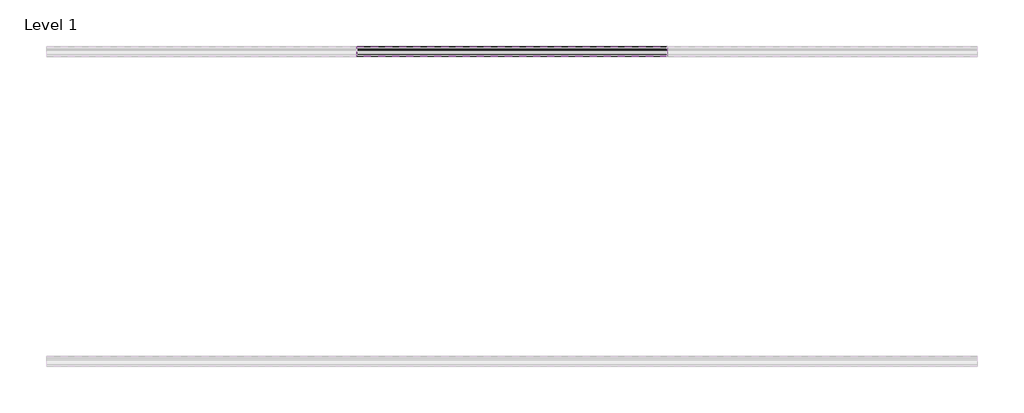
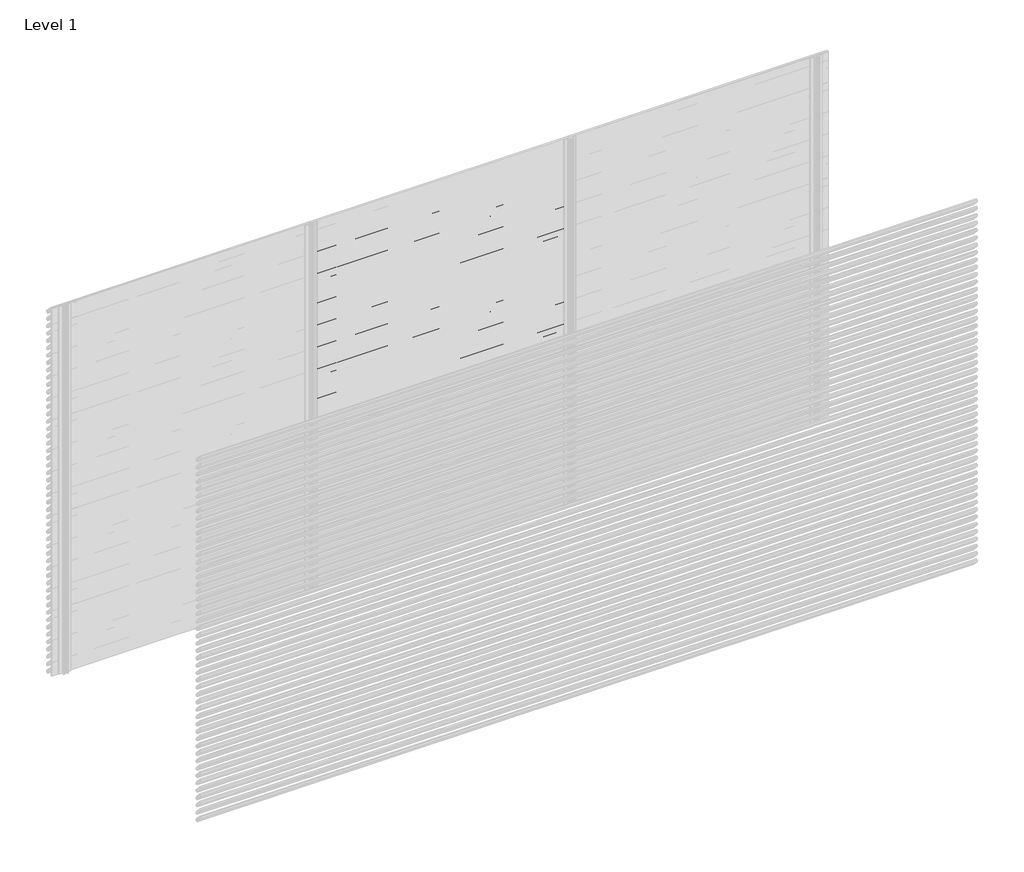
# One storey, part 35 of 153: 33 proxies.
"""IFC4 building model written with IfcOpenShell, lengths in millimetres."""

from ifc_helpers import new_model, si_unit, point, frame, frame_2d, origin, place, context, project, spatial, polyline, circle_curve, trimmed, segment, composite_curve, outline, extrude, element, save

model = new_model("IFC4")

# Units and contexts
model_context = context("Model", 3, world=origin())
ifc_project = project(units=[si_unit("LENGTHUNIT", "METRE", prefix="MILLI")], contexts=[model_context])

# Site, building, storey
site = spatial("IfcSite", under=ifc_project)
building = spatial("IfcBuilding", under=site)
storey = spatial("IfcBuildingStorey", under=building, Name="Level 1", Elevation=0.0)

# Proxies
placement = place(None, origin())
element("IfcBuildingElementProxy", 1, Name="Wall Sweeps", at=placement, inside=storey, context=model_context, shape_type="SweptSolid", body=[
    extrude(outline(composite_curve([segment(polyline([(6989.0270068, 2820.0), (7003.8471842, 2818.7034025), (7053.0270068, 2765.0102749), (7053.0270068, 2753.6108187)]), True, "CONTINUOUS"), segment(trimmed(circle_curve(frame_2d((7049.7613584, 2753.897153)), 3.2781774), [point((7053.0270068, 2753.6108187))], [point((7050.4369373, 2750.6893438))], False, "CARTESIAN"), True, "CONTINUOUS"), segment(polyline([(7050.4369373, 2750.6893438), (7038.1625655, 2751.6282758), (6989.0270068, 2805.2730773), (6989.0270068, 2820.0)]), True, "CONTINUOUS")], self_intersect=False), holes=[composite_curve([segment(polyline([(7003.1351705, 2817.2599659), (6990.5270068, 2818.3630372), (6990.5270068, 2805.856213), (7038.8681968, 2753.0786805), (7050.3042474, 2752.2038762)]), True, "CONTINUOUS"), segment(trimmed(circle_curve(frame_2d((7049.7613584, 2753.897153)), 1.7781774), [point((7050.3042474, 2752.2038762))], [point((7051.5270068, 2753.6864389))], True, "CARTESIAN"), True, "CONTINUOUS"), segment(polyline([(7051.5270068, 2753.6864389), (7051.5270068, 2764.4271392), (7003.1351705, 2817.2599659)]), True, "CONTINUOUS")], self_intersect=False)]), frame((46966.6208098, 0.0, 0.0), z_axis=(1.0, 0.0, 0.0), x_axis=(0.0, 1.0, 0.0)), (0.0, 0.0, 1.0), 1999.9999998),
])
element("IfcBuildingElementProxy", 2, Name="Wall Sweeps", at=placement, inside=storey, context=model_context, shape_type="SweptSolid", body=[
    extrude(outline(composite_curve([segment(polyline([(6989.0270068, 2760.0), (7003.8471842, 2758.7034025), (7053.0270068, 2705.0102749), (7053.0270068, 2693.6108187)]), True, "CONTINUOUS"), segment(trimmed(circle_curve(frame_2d((7049.7613584, 2693.897153)), 3.2781774), [point((7053.0270068, 2693.6108187))], [point((7050.4369373, 2690.6893438))], False, "CARTESIAN"), True, "CONTINUOUS"), segment(polyline([(7050.4369373, 2690.6893438), (7038.1625655, 2691.6282758), (6989.0270068, 2745.2730773), (6989.0270068, 2760.0)]), True, "CONTINUOUS")], self_intersect=False), holes=[composite_curve([segment(polyline([(7003.1351705, 2757.2599659), (6990.5270068, 2758.3630372), (6990.5270068, 2745.856213), (7038.8681968, 2693.0786805), (7050.3042474, 2692.2038762)]), True, "CONTINUOUS"), segment(trimmed(circle_curve(frame_2d((7049.7613584, 2693.897153)), 1.7781774), [point((7050.3042474, 2692.2038762))], [point((7051.5270068, 2693.6864389))], True, "CARTESIAN"), True, "CONTINUOUS"), segment(polyline([(7051.5270068, 2693.6864389), (7051.5270068, 2704.4271392), (7003.1351705, 2757.2599659)]), True, "CONTINUOUS")], self_intersect=False)]), frame((46966.6208098, 0.0, 0.0), z_axis=(1.0, 0.0, 0.0), x_axis=(0.0, 1.0, 0.0)), (0.0, 0.0, 1.0), 1999.9999998),
])
element("IfcBuildingElementProxy", 3, Name="Wall Sweeps", at=placement, inside=storey, context=model_context, shape_type="SweptSolid", body=[
    extrude(outline(composite_curve([segment(polyline([(6989.0270068, 2700.0), (7003.8471842, 2698.7034025), (7053.0270068, 2645.0102749), (7053.0270068, 2633.6108187)]), True, "CONTINUOUS"), segment(trimmed(circle_curve(frame_2d((7049.7613584, 2633.897153)), 3.2781774), [point((7053.0270068, 2633.6108187))], [point((7050.4369373, 2630.6893438))], False, "CARTESIAN"), True, "CONTINUOUS"), segment(polyline([(7050.4369373, 2630.6893438), (7038.1625655, 2631.6282758), (6989.0270068, 2685.2730773), (6989.0270068, 2700.0)]), True, "CONTINUOUS")], self_intersect=False), holes=[composite_curve([segment(polyline([(7003.1351705, 2697.2599659), (6990.5270068, 2698.3630372), (6990.5270068, 2685.856213), (7038.8681968, 2633.0786805), (7050.3042474, 2632.2038762)]), True, "CONTINUOUS"), segment(trimmed(circle_curve(frame_2d((7049.7613584, 2633.897153)), 1.7781774), [point((7050.3042474, 2632.2038762))], [point((7051.5270068, 2633.6864389))], True, "CARTESIAN"), True, "CONTINUOUS"), segment(polyline([(7051.5270068, 2633.6864389), (7051.5270068, 2644.4271392), (7003.1351705, 2697.2599659)]), True, "CONTINUOUS")], self_intersect=False)]), frame((46966.6208098, 0.0, 0.0), z_axis=(1.0, 0.0, 0.0), x_axis=(0.0, 1.0, 0.0)), (0.0, 0.0, 1.0), 1999.9999998),
])
element("IfcBuildingElementProxy", 4, Name="Wall Sweeps", at=placement, inside=storey, context=model_context, shape_type="SweptSolid", body=[
    extrude(outline(composite_curve([segment(polyline([(6989.0270068, 2640.0), (7003.8471842, 2638.7034025), (7053.0270068, 2585.0102749), (7053.0270068, 2573.6108187)]), True, "CONTINUOUS"), segment(trimmed(circle_curve(frame_2d((7049.7613584, 2573.897153)), 3.2781774), [point((7053.0270068, 2573.6108187))], [point((7050.4369373, 2570.6893438))], False, "CARTESIAN"), True, "CONTINUOUS"), segment(polyline([(7050.4369373, 2570.6893438), (7038.1625655, 2571.6282758), (6989.0270068, 2625.2730773), (6989.0270068, 2640.0)]), True, "CONTINUOUS")], self_intersect=False), holes=[composite_curve([segment(polyline([(7003.1351705, 2637.2599659), (6990.5270068, 2638.3630372), (6990.5270068, 2625.856213), (7038.8681968, 2573.0786805), (7050.3042474, 2572.2038762)]), True, "CONTINUOUS"), segment(trimmed(circle_curve(frame_2d((7049.7613584, 2573.897153)), 1.7781774), [point((7050.3042474, 2572.2038762))], [point((7051.5270068, 2573.6864389))], True, "CARTESIAN"), True, "CONTINUOUS"), segment(polyline([(7051.5270068, 2573.6864389), (7051.5270068, 2584.4271392), (7003.1351705, 2637.2599659)]), True, "CONTINUOUS")], self_intersect=False)]), frame((46966.6208098, 0.0, 0.0), z_axis=(1.0, 0.0, 0.0), x_axis=(0.0, 1.0, 0.0)), (0.0, 0.0, 1.0), 1999.9999998),
])
element("IfcBuildingElementProxy", 5, Name="Wall Sweeps", at=placement, inside=storey, context=model_context, shape_type="SweptSolid", body=[
    extrude(outline(composite_curve([segment(polyline([(6989.0270068, 2580.0), (7003.8471842, 2578.7034025), (7053.0270068, 2525.0102749), (7053.0270068, 2513.6108187)]), True, "CONTINUOUS"), segment(trimmed(circle_curve(frame_2d((7049.7613584, 2513.897153)), 3.2781774), [point((7053.0270068, 2513.6108187))], [point((7050.4369373, 2510.6893438))], False, "CARTESIAN"), True, "CONTINUOUS"), segment(polyline([(7050.4369373, 2510.6893438), (7038.1625655, 2511.6282758), (6989.0270068, 2565.2730773), (6989.0270068, 2580.0)]), True, "CONTINUOUS")], self_intersect=False), holes=[composite_curve([segment(polyline([(7003.1351705, 2577.2599659), (6990.5270068, 2578.3630372), (6990.5270068, 2565.856213), (7038.8681968, 2513.0786805), (7050.3042474, 2512.2038762)]), True, "CONTINUOUS"), segment(trimmed(circle_curve(frame_2d((7049.7613584, 2513.897153)), 1.7781774), [point((7050.3042474, 2512.2038762))], [point((7051.5270068, 2513.6864389))], True, "CARTESIAN"), True, "CONTINUOUS"), segment(polyline([(7051.5270068, 2513.6864389), (7051.5270068, 2524.4271392), (7003.1351705, 2577.2599659)]), True, "CONTINUOUS")], self_intersect=False)]), frame((46966.6208098, 0.0, 0.0), z_axis=(1.0, 0.0, 0.0), x_axis=(0.0, 1.0, 0.0)), (0.0, 0.0, 1.0), 1999.9999998),
])
element("IfcBuildingElementProxy", 6, Name="Wall Sweeps", at=placement, inside=storey, context=model_context, shape_type="SweptSolid", body=[
    extrude(outline(composite_curve([segment(polyline([(6989.0270068, 2520.0), (7003.8471842, 2518.7034025), (7053.0270068, 2465.0102749), (7053.0270068, 2453.6108187)]), True, "CONTINUOUS"), segment(trimmed(circle_curve(frame_2d((7049.7613584, 2453.897153)), 3.2781774), [point((7053.0270068, 2453.6108187))], [point((7050.4369373, 2450.6893438))], False, "CARTESIAN"), True, "CONTINUOUS"), segment(polyline([(7050.4369373, 2450.6893438), (7038.1625655, 2451.6282758), (6989.0270068, 2505.2730773), (6989.0270068, 2520.0)]), True, "CONTINUOUS")], self_intersect=False), holes=[composite_curve([segment(polyline([(7003.1351705, 2517.2599659), (6990.5270068, 2518.3630372), (6990.5270068, 2505.856213), (7038.8681968, 2453.0786805), (7050.3042474, 2452.2038762)]), True, "CONTINUOUS"), segment(trimmed(circle_curve(frame_2d((7049.7613584, 2453.897153)), 1.7781774), [point((7050.3042474, 2452.2038762))], [point((7051.5270068, 2453.6864389))], True, "CARTESIAN"), True, "CONTINUOUS"), segment(polyline([(7051.5270068, 2453.6864389), (7051.5270068, 2464.4271392), (7003.1351705, 2517.2599659)]), True, "CONTINUOUS")], self_intersect=False)]), frame((46966.6208098, 0.0, 0.0), z_axis=(1.0, 0.0, 0.0), x_axis=(0.0, 1.0, 0.0)), (0.0, 0.0, 1.0), 1999.9999998),
])
element("IfcBuildingElementProxy", 7, Name="Wall Sweeps", at=placement, inside=storey, context=model_context, shape_type="SweptSolid", body=[
    extrude(outline(composite_curve([segment(polyline([(6989.0270068, 2460.0), (7003.8471842, 2458.7034025), (7053.0270068, 2405.0102749), (7053.0270068, 2393.6108187)]), True, "CONTINUOUS"), segment(trimmed(circle_curve(frame_2d((7049.7613584, 2393.897153)), 3.2781774), [point((7053.0270068, 2393.6108187))], [point((7050.4369373, 2390.6893438))], False, "CARTESIAN"), True, "CONTINUOUS"), segment(polyline([(7050.4369373, 2390.6893438), (7038.1625655, 2391.6282758), (6989.0270068, 2445.2730773), (6989.0270068, 2460.0)]), True, "CONTINUOUS")], self_intersect=False), holes=[composite_curve([segment(polyline([(7003.1351705, 2457.2599659), (6990.5270068, 2458.3630372), (6990.5270068, 2445.856213), (7038.8681968, 2393.0786805), (7050.3042474, 2392.2038762)]), True, "CONTINUOUS"), segment(trimmed(circle_curve(frame_2d((7049.7613584, 2393.897153)), 1.7781774), [point((7050.3042474, 2392.2038762))], [point((7051.5270068, 2393.6864389))], True, "CARTESIAN"), True, "CONTINUOUS"), segment(polyline([(7051.5270068, 2393.6864389), (7051.5270068, 2404.4271392), (7003.1351705, 2457.2599659)]), True, "CONTINUOUS")], self_intersect=False)]), frame((46966.6208098, 0.0, 0.0), z_axis=(1.0, 0.0, 0.0), x_axis=(0.0, 1.0, 0.0)), (0.0, 0.0, 1.0), 1999.9999998),
])
element("IfcBuildingElementProxy", 8, Name="Wall Sweeps", at=placement, inside=storey, context=model_context, shape_type="SweptSolid", body=[
    extrude(outline(composite_curve([segment(polyline([(6989.0270068, 2400.0), (7003.8471842, 2398.7034025), (7053.0270068, 2345.0102749), (7053.0270068, 2333.6108187)]), True, "CONTINUOUS"), segment(trimmed(circle_curve(frame_2d((7049.7613584, 2333.897153)), 3.2781774), [point((7053.0270068, 2333.6108187))], [point((7050.4369373, 2330.6893438))], False, "CARTESIAN"), True, "CONTINUOUS"), segment(polyline([(7050.4369373, 2330.6893438), (7038.1625655, 2331.6282758), (6989.0270068, 2385.2730773), (6989.0270068, 2400.0)]), True, "CONTINUOUS")], self_intersect=False), holes=[composite_curve([segment(polyline([(7003.1351705, 2397.2599659), (6990.5270068, 2398.3630372), (6990.5270068, 2385.856213), (7038.8681968, 2333.0786805), (7050.3042474, 2332.2038762)]), True, "CONTINUOUS"), segment(trimmed(circle_curve(frame_2d((7049.7613584, 2333.897153)), 1.7781774), [point((7050.3042474, 2332.2038762))], [point((7051.5270068, 2333.6864389))], True, "CARTESIAN"), True, "CONTINUOUS"), segment(polyline([(7051.5270068, 2333.6864389), (7051.5270068, 2344.4271392), (7003.1351705, 2397.2599659)]), True, "CONTINUOUS")], self_intersect=False)]), frame((46966.6208098, 0.0, 0.0), z_axis=(1.0, 0.0, 0.0), x_axis=(0.0, 1.0, 0.0)), (0.0, 0.0, 1.0), 1999.9999998),
])
element("IfcBuildingElementProxy", 9, Name="Wall Sweeps", at=placement, inside=storey, context=model_context, shape_type="SweptSolid", body=[
    extrude(outline(composite_curve([segment(polyline([(6989.0270068, 2340.0), (7003.8471842, 2338.7034025), (7053.0270068, 2285.0102749), (7053.0270068, 2273.6108187)]), True, "CONTINUOUS"), segment(trimmed(circle_curve(frame_2d((7049.7613584, 2273.897153)), 3.2781774), [point((7053.0270068, 2273.6108187))], [point((7050.4369373, 2270.6893438))], False, "CARTESIAN"), True, "CONTINUOUS"), segment(polyline([(7050.4369373, 2270.6893438), (7038.1625655, 2271.6282758), (6989.0270068, 2325.2730773), (6989.0270068, 2340.0)]), True, "CONTINUOUS")], self_intersect=False), holes=[composite_curve([segment(polyline([(7003.1351705, 2337.2599659), (6990.5270068, 2338.3630372), (6990.5270068, 2325.856213), (7038.8681968, 2273.0786805), (7050.3042474, 2272.2038762)]), True, "CONTINUOUS"), segment(trimmed(circle_curve(frame_2d((7049.7613584, 2273.897153)), 1.7781774), [point((7050.3042474, 2272.2038762))], [point((7051.5270068, 2273.6864389))], True, "CARTESIAN"), True, "CONTINUOUS"), segment(polyline([(7051.5270068, 2273.6864389), (7051.5270068, 2284.4271392), (7003.1351705, 2337.2599659)]), True, "CONTINUOUS")], self_intersect=False)]), frame((46966.6208098, 0.0, 0.0), z_axis=(1.0, 0.0, 0.0), x_axis=(0.0, 1.0, 0.0)), (0.0, 0.0, 1.0), 1999.9999998),
])
element("IfcBuildingElementProxy", 10, Name="Wall Sweeps", at=placement, inside=storey, context=model_context, shape_type="SweptSolid", body=[
    extrude(outline(composite_curve([segment(polyline([(6989.0270068, 2280.0), (7003.8471842, 2278.7034025), (7053.0270068, 2225.0102749), (7053.0270068, 2213.6108187)]), True, "CONTINUOUS"), segment(trimmed(circle_curve(frame_2d((7049.7613584, 2213.897153)), 3.2781774), [point((7053.0270068, 2213.6108187))], [point((7050.4369373, 2210.6893438))], False, "CARTESIAN"), True, "CONTINUOUS"), segment(polyline([(7050.4369373, 2210.6893438), (7038.1625655, 2211.6282758), (6989.0270068, 2265.2730773), (6989.0270068, 2280.0)]), True, "CONTINUOUS")], self_intersect=False), holes=[composite_curve([segment(polyline([(7003.1351705, 2277.2599659), (6990.5270068, 2278.3630372), (6990.5270068, 2265.856213), (7038.8681968, 2213.0786805), (7050.3042474, 2212.2038762)]), True, "CONTINUOUS"), segment(trimmed(circle_curve(frame_2d((7049.7613584, 2213.897153)), 1.7781774), [point((7050.3042474, 2212.2038762))], [point((7051.5270068, 2213.6864389))], True, "CARTESIAN"), True, "CONTINUOUS"), segment(polyline([(7051.5270068, 2213.6864389), (7051.5270068, 2224.4271392), (7003.1351705, 2277.2599659)]), True, "CONTINUOUS")], self_intersect=False)]), frame((46966.6208098, 0.0, 0.0), z_axis=(1.0, 0.0, 0.0), x_axis=(0.0, 1.0, 0.0)), (0.0, 0.0, 1.0), 1999.9999998),
])
element("IfcBuildingElementProxy", 11, Name="Wall Sweeps", at=placement, inside=storey, context=model_context, shape_type="SweptSolid", body=[
    extrude(outline(composite_curve([segment(polyline([(6989.0270068, 2220.0), (7003.8471842, 2218.7034025), (7053.0270068, 2165.0102749), (7053.0270068, 2153.6108187)]), True, "CONTINUOUS"), segment(trimmed(circle_curve(frame_2d((7049.7613584, 2153.897153)), 3.2781774), [point((7053.0270068, 2153.6108187))], [point((7050.4369373, 2150.6893438))], False, "CARTESIAN"), True, "CONTINUOUS"), segment(polyline([(7050.4369373, 2150.6893438), (7038.1625655, 2151.6282758), (6989.0270068, 2205.2730773), (6989.0270068, 2220.0)]), True, "CONTINUOUS")], self_intersect=False), holes=[composite_curve([segment(polyline([(7003.1351705, 2217.2599659), (6990.5270068, 2218.3630372), (6990.5270068, 2205.856213), (7038.8681968, 2153.0786805), (7050.3042474, 2152.2038762)]), True, "CONTINUOUS"), segment(trimmed(circle_curve(frame_2d((7049.7613584, 2153.897153)), 1.7781774), [point((7050.3042474, 2152.2038762))], [point((7051.5270068, 2153.6864389))], True, "CARTESIAN"), True, "CONTINUOUS"), segment(polyline([(7051.5270068, 2153.6864389), (7051.5270068, 2164.4271392), (7003.1351705, 2217.2599659)]), True, "CONTINUOUS")], self_intersect=False)]), frame((46966.6208098, 0.0, 0.0), z_axis=(1.0, 0.0, 0.0), x_axis=(0.0, 1.0, 0.0)), (0.0, 0.0, 1.0), 1999.9999998),
])
element("IfcBuildingElementProxy", 12, Name="Wall Sweeps", at=placement, inside=storey, context=model_context, shape_type="SweptSolid", body=[
    extrude(outline(composite_curve([segment(polyline([(6989.0270068, 2160.0), (7003.8471842, 2158.7034025), (7053.0270068, 2105.0102749), (7053.0270068, 2093.6108187)]), True, "CONTINUOUS"), segment(trimmed(circle_curve(frame_2d((7049.7613584, 2093.897153)), 3.2781774), [point((7053.0270068, 2093.6108187))], [point((7050.4369373, 2090.6893438))], False, "CARTESIAN"), True, "CONTINUOUS"), segment(polyline([(7050.4369373, 2090.6893438), (7038.1625655, 2091.6282758), (6989.0270068, 2145.2730773), (6989.0270068, 2160.0)]), True, "CONTINUOUS")], self_intersect=False), holes=[composite_curve([segment(polyline([(7003.1351705, 2157.2599659), (6990.5270068, 2158.3630372), (6990.5270068, 2145.856213), (7038.8681968, 2093.0786805), (7050.3042474, 2092.2038762)]), True, "CONTINUOUS"), segment(trimmed(circle_curve(frame_2d((7049.7613584, 2093.897153)), 1.7781774), [point((7050.3042474, 2092.2038762))], [point((7051.5270068, 2093.6864389))], True, "CARTESIAN"), True, "CONTINUOUS"), segment(polyline([(7051.5270068, 2093.6864389), (7051.5270068, 2104.4271392), (7003.1351705, 2157.2599659)]), True, "CONTINUOUS")], self_intersect=False)]), frame((46966.6208098, 0.0, 0.0), z_axis=(1.0, 0.0, 0.0), x_axis=(0.0, 1.0, 0.0)), (0.0, 0.0, 1.0), 1999.9999998),
])
element("IfcBuildingElementProxy", 13, Name="Wall Sweeps", at=placement, inside=storey, context=model_context, shape_type="SweptSolid", body=[
    extrude(outline(composite_curve([segment(polyline([(6989.0270068, 2100.0), (7003.8471842, 2098.7034025), (7053.0270068, 2045.0102749), (7053.0270068, 2033.6108187)]), True, "CONTINUOUS"), segment(trimmed(circle_curve(frame_2d((7049.7613584, 2033.897153)), 3.2781774), [point((7053.0270068, 2033.6108187))], [point((7050.4369373, 2030.6893438))], False, "CARTESIAN"), True, "CONTINUOUS"), segment(polyline([(7050.4369373, 2030.6893438), (7038.1625655, 2031.6282758), (6989.0270068, 2085.2730773), (6989.0270068, 2100.0)]), True, "CONTINUOUS")], self_intersect=False), holes=[composite_curve([segment(polyline([(7003.1351705, 2097.2599659), (6990.5270068, 2098.3630372), (6990.5270068, 2085.856213), (7038.8681968, 2033.0786805), (7050.3042474, 2032.2038762)]), True, "CONTINUOUS"), segment(trimmed(circle_curve(frame_2d((7049.7613584, 2033.897153)), 1.7781774), [point((7050.3042474, 2032.2038762))], [point((7051.5270068, 2033.6864389))], True, "CARTESIAN"), True, "CONTINUOUS"), segment(polyline([(7051.5270068, 2033.6864389), (7051.5270068, 2044.4271392), (7003.1351705, 2097.2599659)]), True, "CONTINUOUS")], self_intersect=False)]), frame((46966.6208098, 0.0, 0.0), z_axis=(1.0, 0.0, 0.0), x_axis=(0.0, 1.0, 0.0)), (0.0, 0.0, 1.0), 1999.9999998),
])
element("IfcBuildingElementProxy", 14, Name="Wall Sweeps", at=placement, inside=storey, context=model_context, shape_type="SweptSolid", body=[
    extrude(outline(composite_curve([segment(polyline([(6989.0270068, 2040.0), (7003.8471842, 2038.7034025), (7053.0270068, 1985.0102749), (7053.0270068, 1973.6108187)]), True, "CONTINUOUS"), segment(trimmed(circle_curve(frame_2d((7049.7613584, 1973.897153)), 3.2781774), [point((7053.0270068, 1973.6108187))], [point((7050.4369373, 1970.6893438))], False, "CARTESIAN"), True, "CONTINUOUS"), segment(polyline([(7050.4369373, 1970.6893438), (7038.1625655, 1971.6282758), (6989.0270068, 2025.2730773), (6989.0270068, 2040.0)]), True, "CONTINUOUS")], self_intersect=False), holes=[composite_curve([segment(polyline([(7003.1351705, 2037.2599659), (6990.5270068, 2038.3630372), (6990.5270068, 2025.856213), (7038.8681968, 1973.0786805), (7050.3042474, 1972.2038762)]), True, "CONTINUOUS"), segment(trimmed(circle_curve(frame_2d((7049.7613584, 1973.897153)), 1.7781774), [point((7050.3042474, 1972.2038762))], [point((7051.5270068, 1973.6864389))], True, "CARTESIAN"), True, "CONTINUOUS"), segment(polyline([(7051.5270068, 1973.6864389), (7051.5270068, 1984.4271392), (7003.1351705, 2037.2599659)]), True, "CONTINUOUS")], self_intersect=False)]), frame((46966.6208098, 0.0, 0.0), z_axis=(1.0, 0.0, 0.0), x_axis=(0.0, 1.0, 0.0)), (0.0, 0.0, 1.0), 1999.9999998),
])
element("IfcBuildingElementProxy", 15, Name="Wall Sweeps", at=placement, inside=storey, context=model_context, shape_type="SweptSolid", body=[
    extrude(outline(composite_curve([segment(polyline([(6989.0270068, 1980.0), (7003.8471842, 1978.7034025), (7053.0270068, 1925.0102749), (7053.0270068, 1913.6108187)]), True, "CONTINUOUS"), segment(trimmed(circle_curve(frame_2d((7049.7613584, 1913.897153)), 3.2781774), [point((7053.0270068, 1913.6108187))], [point((7050.4369373, 1910.6893438))], False, "CARTESIAN"), True, "CONTINUOUS"), segment(polyline([(7050.4369373, 1910.6893438), (7038.1625655, 1911.6282758), (6989.0270068, 1965.2730773), (6989.0270068, 1980.0)]), True, "CONTINUOUS")], self_intersect=False), holes=[composite_curve([segment(polyline([(7003.1351705, 1977.2599659), (6990.5270068, 1978.3630372), (6990.5270068, 1965.856213), (7038.8681968, 1913.0786805), (7050.3042474, 1912.2038762)]), True, "CONTINUOUS"), segment(trimmed(circle_curve(frame_2d((7049.7613584, 1913.897153)), 1.7781774), [point((7050.3042474, 1912.2038762))], [point((7051.5270068, 1913.6864389))], True, "CARTESIAN"), True, "CONTINUOUS"), segment(polyline([(7051.5270068, 1913.6864389), (7051.5270068, 1924.4271392), (7003.1351705, 1977.2599659)]), True, "CONTINUOUS")], self_intersect=False)]), frame((46966.6208098, 0.0, 0.0), z_axis=(1.0, 0.0, 0.0), x_axis=(0.0, 1.0, 0.0)), (0.0, 0.0, 1.0), 1999.9999998),
])
element("IfcBuildingElementProxy", 16, Name="Wall Sweeps", at=placement, inside=storey, context=model_context, shape_type="SweptSolid", body=[
    extrude(outline(composite_curve([segment(polyline([(6989.0270068, 1920.0), (7003.8471842, 1918.7034025), (7053.0270068, 1865.0102749), (7053.0270068, 1853.6108187)]), True, "CONTINUOUS"), segment(trimmed(circle_curve(frame_2d((7049.7613584, 1853.897153)), 3.2781774), [point((7053.0270068, 1853.6108187))], [point((7050.4369373, 1850.6893438))], False, "CARTESIAN"), True, "CONTINUOUS"), segment(polyline([(7050.4369373, 1850.6893438), (7038.1625655, 1851.6282758), (6989.0270068, 1905.2730773), (6989.0270068, 1920.0)]), True, "CONTINUOUS")], self_intersect=False), holes=[composite_curve([segment(polyline([(7003.1351705, 1917.2599659), (6990.5270068, 1918.3630372), (6990.5270068, 1905.856213), (7038.8681968, 1853.0786805), (7050.3042474, 1852.2038762)]), True, "CONTINUOUS"), segment(trimmed(circle_curve(frame_2d((7049.7613584, 1853.897153)), 1.7781774), [point((7050.3042474, 1852.2038762))], [point((7051.5270068, 1853.6864389))], True, "CARTESIAN"), True, "CONTINUOUS"), segment(polyline([(7051.5270068, 1853.6864389), (7051.5270068, 1864.4271392), (7003.1351705, 1917.2599659)]), True, "CONTINUOUS")], self_intersect=False)]), frame((46966.6208098, 0.0, 0.0), z_axis=(1.0, 0.0, 0.0), x_axis=(0.0, 1.0, 0.0)), (0.0, 0.0, 1.0), 1999.9999998),
])
element("IfcBuildingElementProxy", 17, Name="Wall Sweeps", at=placement, inside=storey, context=model_context, shape_type="SweptSolid", body=[
    extrude(outline(composite_curve([segment(polyline([(6989.0270068, 1860.0), (7003.8471842, 1858.7034025), (7053.0270068, 1805.0102749), (7053.0270068, 1793.6108187)]), True, "CONTINUOUS"), segment(trimmed(circle_curve(frame_2d((7049.7613584, 1793.897153)), 3.2781774), [point((7053.0270068, 1793.6108187))], [point((7050.4369373, 1790.6893438))], False, "CARTESIAN"), True, "CONTINUOUS"), segment(polyline([(7050.4369373, 1790.6893438), (7038.1625655, 1791.6282758), (6989.0270068, 1845.2730773), (6989.0270068, 1860.0)]), True, "CONTINUOUS")], self_intersect=False), holes=[composite_curve([segment(polyline([(7003.1351705, 1857.2599659), (6990.5270068, 1858.3630372), (6990.5270068, 1845.856213), (7038.8681968, 1793.0786805), (7050.3042474, 1792.2038762)]), True, "CONTINUOUS"), segment(trimmed(circle_curve(frame_2d((7049.7613584, 1793.897153)), 1.7781774), [point((7050.3042474, 1792.2038762))], [point((7051.5270068, 1793.6864389))], True, "CARTESIAN"), True, "CONTINUOUS"), segment(polyline([(7051.5270068, 1793.6864389), (7051.5270068, 1804.4271392), (7003.1351705, 1857.2599659)]), True, "CONTINUOUS")], self_intersect=False)]), frame((46966.6208098, 0.0, 0.0), z_axis=(1.0, 0.0, 0.0), x_axis=(0.0, 1.0, 0.0)), (0.0, 0.0, 1.0), 1999.9999998),
])
element("IfcBuildingElementProxy", 18, Name="Wall Sweeps", at=placement, inside=storey, context=model_context, shape_type="SweptSolid", body=[
    extrude(outline(composite_curve([segment(polyline([(6989.0270068, 1800.0), (7003.8471842, 1798.7034025), (7053.0270068, 1745.0102749), (7053.0270068, 1733.6108187)]), True, "CONTINUOUS"), segment(trimmed(circle_curve(frame_2d((7049.7613584, 1733.897153)), 3.2781774), [point((7053.0270068, 1733.6108187))], [point((7050.4369373, 1730.6893438))], False, "CARTESIAN"), True, "CONTINUOUS"), segment(polyline([(7050.4369373, 1730.6893438), (7038.1625655, 1731.6282758), (6989.0270068, 1785.2730773), (6989.0270068, 1800.0)]), True, "CONTINUOUS")], self_intersect=False), holes=[composite_curve([segment(polyline([(7003.1351705, 1797.2599659), (6990.5270068, 1798.3630372), (6990.5270068, 1785.856213), (7038.8681968, 1733.0786805), (7050.3042474, 1732.2038762)]), True, "CONTINUOUS"), segment(trimmed(circle_curve(frame_2d((7049.7613584, 1733.897153)), 1.7781774), [point((7050.3042474, 1732.2038762))], [point((7051.5270068, 1733.6864389))], True, "CARTESIAN"), True, "CONTINUOUS"), segment(polyline([(7051.5270068, 1733.6864389), (7051.5270068, 1744.4271392), (7003.1351705, 1797.2599659)]), True, "CONTINUOUS")], self_intersect=False)]), frame((46966.6208098, 0.0, 0.0), z_axis=(1.0, 0.0, 0.0), x_axis=(0.0, 1.0, 0.0)), (0.0, 0.0, 1.0), 1999.9999998),
])
element("IfcBuildingElementProxy", 19, Name="Wall Sweeps", at=placement, inside=storey, context=model_context, shape_type="SweptSolid", body=[
    extrude(outline(composite_curve([segment(polyline([(6989.0270068, 1740.0), (7003.8471842, 1738.7034025), (7053.0270068, 1685.0102749), (7053.0270068, 1673.6108187)]), True, "CONTINUOUS"), segment(trimmed(circle_curve(frame_2d((7049.7613584, 1673.897153)), 3.2781774), [point((7053.0270068, 1673.6108187))], [point((7050.4369373, 1670.6893438))], False, "CARTESIAN"), True, "CONTINUOUS"), segment(polyline([(7050.4369373, 1670.6893438), (7038.1625655, 1671.6282758), (6989.0270068, 1725.2730773), (6989.0270068, 1740.0)]), True, "CONTINUOUS")], self_intersect=False), holes=[composite_curve([segment(polyline([(7003.1351705, 1737.2599659), (6990.5270068, 1738.3630372), (6990.5270068, 1725.856213), (7038.8681968, 1673.0786805), (7050.3042474, 1672.2038762)]), True, "CONTINUOUS"), segment(trimmed(circle_curve(frame_2d((7049.7613584, 1673.897153)), 1.7781774), [point((7050.3042474, 1672.2038762))], [point((7051.5270068, 1673.6864389))], True, "CARTESIAN"), True, "CONTINUOUS"), segment(polyline([(7051.5270068, 1673.6864389), (7051.5270068, 1684.4271392), (7003.1351705, 1737.2599659)]), True, "CONTINUOUS")], self_intersect=False)]), frame((46966.6208098, 0.0, 0.0), z_axis=(1.0, 0.0, 0.0), x_axis=(0.0, 1.0, 0.0)), (0.0, 0.0, 1.0), 1999.9999998),
])
element("IfcBuildingElementProxy", 20, Name="Wall Sweeps", at=placement, inside=storey, context=model_context, shape_type="SweptSolid", body=[
    extrude(outline(composite_curve([segment(polyline([(6989.0270068, 1680.0), (7003.8471842, 1678.7034025), (7053.0270068, 1625.0102749), (7053.0270068, 1613.6108187)]), True, "CONTINUOUS"), segment(trimmed(circle_curve(frame_2d((7049.7613584, 1613.897153)), 3.2781774), [point((7053.0270068, 1613.6108187))], [point((7050.4369373, 1610.6893438))], False, "CARTESIAN"), True, "CONTINUOUS"), segment(polyline([(7050.4369373, 1610.6893438), (7038.1625655, 1611.6282758), (6989.0270068, 1665.2730773), (6989.0270068, 1680.0)]), True, "CONTINUOUS")], self_intersect=False), holes=[composite_curve([segment(polyline([(7003.1351705, 1677.2599659), (6990.5270068, 1678.3630372), (6990.5270068, 1665.856213), (7038.8681968, 1613.0786805), (7050.3042474, 1612.2038762)]), True, "CONTINUOUS"), segment(trimmed(circle_curve(frame_2d((7049.7613584, 1613.897153)), 1.7781774), [point((7050.3042474, 1612.2038762))], [point((7051.5270068, 1613.6864389))], True, "CARTESIAN"), True, "CONTINUOUS"), segment(polyline([(7051.5270068, 1613.6864389), (7051.5270068, 1624.4271392), (7003.1351705, 1677.2599659)]), True, "CONTINUOUS")], self_intersect=False)]), frame((46966.6208098, 0.0, 0.0), z_axis=(1.0, 0.0, 0.0), x_axis=(0.0, 1.0, 0.0)), (0.0, 0.0, 1.0), 1999.9999998),
])
element("IfcBuildingElementProxy", 21, Name="Wall Sweeps", at=placement, inside=storey, context=model_context, shape_type="SweptSolid", body=[
    extrude(outline(composite_curve([segment(polyline([(6989.0270068, 1620.0), (7003.8471842, 1618.7034025), (7053.0270068, 1565.0102749), (7053.0270068, 1553.6108187)]), True, "CONTINUOUS"), segment(trimmed(circle_curve(frame_2d((7049.7613584, 1553.897153)), 3.2781774), [point((7053.0270068, 1553.6108187))], [point((7050.4369373, 1550.6893438))], False, "CARTESIAN"), True, "CONTINUOUS"), segment(polyline([(7050.4369373, 1550.6893438), (7038.1625655, 1551.6282758), (6989.0270068, 1605.2730773), (6989.0270068, 1620.0)]), True, "CONTINUOUS")], self_intersect=False), holes=[composite_curve([segment(polyline([(7003.1351705, 1617.2599659), (6990.5270068, 1618.3630372), (6990.5270068, 1605.856213), (7038.8681968, 1553.0786805), (7050.3042474, 1552.2038762)]), True, "CONTINUOUS"), segment(trimmed(circle_curve(frame_2d((7049.7613584, 1553.897153)), 1.7781774), [point((7050.3042474, 1552.2038762))], [point((7051.5270068, 1553.6864389))], True, "CARTESIAN"), True, "CONTINUOUS"), segment(polyline([(7051.5270068, 1553.6864389), (7051.5270068, 1564.4271392), (7003.1351705, 1617.2599659)]), True, "CONTINUOUS")], self_intersect=False)]), frame((46966.6208098, 0.0, 0.0), z_axis=(1.0, 0.0, 0.0), x_axis=(0.0, 1.0, 0.0)), (0.0, 0.0, 1.0), 1999.9999998),
])
element("IfcBuildingElementProxy", 22, Name="Wall Sweeps", at=placement, inside=storey, context=model_context, shape_type="SweptSolid", body=[
    extrude(outline(composite_curve([segment(polyline([(6989.0270068, 1560.0), (7003.8471842, 1558.7034025), (7053.0270068, 1505.0102749), (7053.0270068, 1493.6108187)]), True, "CONTINUOUS"), segment(trimmed(circle_curve(frame_2d((7049.7613584, 1493.897153)), 3.2781774), [point((7053.0270068, 1493.6108187))], [point((7050.4369373, 1490.6893438))], False, "CARTESIAN"), True, "CONTINUOUS"), segment(polyline([(7050.4369373, 1490.6893438), (7038.1625655, 1491.6282758), (6989.0270068, 1545.2730773), (6989.0270068, 1560.0)]), True, "CONTINUOUS")], self_intersect=False), holes=[composite_curve([segment(polyline([(7003.1351705, 1557.2599659), (6990.5270068, 1558.3630372), (6990.5270068, 1545.856213), (7038.8681968, 1493.0786805), (7050.3042474, 1492.2038762)]), True, "CONTINUOUS"), segment(trimmed(circle_curve(frame_2d((7049.7613584, 1493.897153)), 1.7781774), [point((7050.3042474, 1492.2038762))], [point((7051.5270068, 1493.6864389))], True, "CARTESIAN"), True, "CONTINUOUS"), segment(polyline([(7051.5270068, 1493.6864389), (7051.5270068, 1504.4271392), (7003.1351705, 1557.2599659)]), True, "CONTINUOUS")], self_intersect=False)]), frame((46966.6208098, 0.0, 0.0), z_axis=(1.0, 0.0, 0.0), x_axis=(0.0, 1.0, 0.0)), (0.0, 0.0, 1.0), 1999.9999998),
])
element("IfcBuildingElementProxy", 23, Name="Wall Sweeps", at=placement, inside=storey, context=model_context, shape_type="SweptSolid", body=[
    extrude(outline(composite_curve([segment(polyline([(6989.0270068, 1500.0), (7003.8471842, 1498.7034025), (7053.0270068, 1445.0102749), (7053.0270068, 1433.6108187)]), True, "CONTINUOUS"), segment(trimmed(circle_curve(frame_2d((7049.7613584, 1433.897153)), 3.2781774), [point((7053.0270068, 1433.6108187))], [point((7050.4369373, 1430.6893438))], False, "CARTESIAN"), True, "CONTINUOUS"), segment(polyline([(7050.4369373, 1430.6893438), (7038.1625655, 1431.6282758), (6989.0270068, 1485.2730773), (6989.0270068, 1500.0)]), True, "CONTINUOUS")], self_intersect=False), holes=[composite_curve([segment(polyline([(7003.1351705, 1497.2599659), (6990.5270068, 1498.3630372), (6990.5270068, 1485.856213), (7038.8681968, 1433.0786805), (7050.3042474, 1432.2038762)]), True, "CONTINUOUS"), segment(trimmed(circle_curve(frame_2d((7049.7613584, 1433.897153)), 1.7781774), [point((7050.3042474, 1432.2038762))], [point((7051.5270068, 1433.6864389))], True, "CARTESIAN"), True, "CONTINUOUS"), segment(polyline([(7051.5270068, 1433.6864389), (7051.5270068, 1444.4271392), (7003.1351705, 1497.2599659)]), True, "CONTINUOUS")], self_intersect=False)]), frame((46966.6208098, 0.0, 0.0), z_axis=(1.0, 0.0, 0.0), x_axis=(0.0, 1.0, 0.0)), (0.0, 0.0, 1.0), 1999.9999998),
])
element("IfcBuildingElementProxy", 24, Name="Wall Sweeps", at=placement, inside=storey, context=model_context, shape_type="SweptSolid", body=[
    extrude(outline(composite_curve([segment(polyline([(6989.0270068, 1440.0), (7003.8471842, 1438.7034025), (7053.0270068, 1385.0102749), (7053.0270068, 1373.6108187)]), True, "CONTINUOUS"), segment(trimmed(circle_curve(frame_2d((7049.7613584, 1373.897153)), 3.2781774), [point((7053.0270068, 1373.6108187))], [point((7050.4369373, 1370.6893438))], False, "CARTESIAN"), True, "CONTINUOUS"), segment(polyline([(7050.4369373, 1370.6893438), (7038.1625655, 1371.6282758), (6989.0270068, 1425.2730773), (6989.0270068, 1440.0)]), True, "CONTINUOUS")], self_intersect=False), holes=[composite_curve([segment(polyline([(7003.1351705, 1437.2599659), (6990.5270068, 1438.3630372), (6990.5270068, 1425.856213), (7038.8681968, 1373.0786805), (7050.3042474, 1372.2038762)]), True, "CONTINUOUS"), segment(trimmed(circle_curve(frame_2d((7049.7613584, 1373.897153)), 1.7781774), [point((7050.3042474, 1372.2038762))], [point((7051.5270068, 1373.6864389))], True, "CARTESIAN"), True, "CONTINUOUS"), segment(polyline([(7051.5270068, 1373.6864389), (7051.5270068, 1384.4271392), (7003.1351705, 1437.2599659)]), True, "CONTINUOUS")], self_intersect=False)]), frame((46966.6208098, 0.0, 0.0), z_axis=(1.0, 0.0, 0.0), x_axis=(0.0, 1.0, 0.0)), (0.0, 0.0, 1.0), 1999.9999998),
])
element("IfcBuildingElementProxy", 25, Name="Wall Sweeps", at=placement, inside=storey, context=model_context, shape_type="SweptSolid", body=[
    extrude(outline(composite_curve([segment(polyline([(6989.0270068, 1380.0), (7003.8471842, 1378.7034025), (7053.0270068, 1325.0102749), (7053.0270068, 1313.6108187)]), True, "CONTINUOUS"), segment(trimmed(circle_curve(frame_2d((7049.7613584, 1313.897153)), 3.2781774), [point((7053.0270068, 1313.6108187))], [point((7050.4369373, 1310.6893438))], False, "CARTESIAN"), True, "CONTINUOUS"), segment(polyline([(7050.4369373, 1310.6893438), (7038.1625655, 1311.6282758), (6989.0270068, 1365.2730773), (6989.0270068, 1380.0)]), True, "CONTINUOUS")], self_intersect=False), holes=[composite_curve([segment(polyline([(7003.1351705, 1377.2599659), (6990.5270068, 1378.3630372), (6990.5270068, 1365.856213), (7038.8681968, 1313.0786805), (7050.3042474, 1312.2038762)]), True, "CONTINUOUS"), segment(trimmed(circle_curve(frame_2d((7049.7613584, 1313.897153)), 1.7781774), [point((7050.3042474, 1312.2038762))], [point((7051.5270068, 1313.6864389))], True, "CARTESIAN"), True, "CONTINUOUS"), segment(polyline([(7051.5270068, 1313.6864389), (7051.5270068, 1324.4271392), (7003.1351705, 1377.2599659)]), True, "CONTINUOUS")], self_intersect=False)]), frame((46966.6208098, 0.0, 0.0), z_axis=(1.0, 0.0, 0.0), x_axis=(0.0, 1.0, 0.0)), (0.0, 0.0, 1.0), 1999.9999998),
])
element("IfcBuildingElementProxy", 26, Name="Wall Sweeps", at=placement, inside=storey, context=model_context, shape_type="SweptSolid", body=[
    extrude(outline(composite_curve([segment(polyline([(6989.0270068, 1320.0), (7003.8471842, 1318.7034025), (7053.0270068, 1265.0102749), (7053.0270068, 1253.6108187)]), True, "CONTINUOUS"), segment(trimmed(circle_curve(frame_2d((7049.7613584, 1253.897153)), 3.2781774), [point((7053.0270068, 1253.6108187))], [point((7050.4369373, 1250.6893438))], False, "CARTESIAN"), True, "CONTINUOUS"), segment(polyline([(7050.4369373, 1250.6893438), (7038.1625655, 1251.6282758), (6989.0270068, 1305.2730773), (6989.0270068, 1320.0)]), True, "CONTINUOUS")], self_intersect=False), holes=[composite_curve([segment(polyline([(7003.1351705, 1317.2599659), (6990.5270068, 1318.3630372), (6990.5270068, 1305.856213), (7038.8681968, 1253.0786805), (7050.3042474, 1252.2038762)]), True, "CONTINUOUS"), segment(trimmed(circle_curve(frame_2d((7049.7613584, 1253.897153)), 1.7781774), [point((7050.3042474, 1252.2038762))], [point((7051.5270068, 1253.6864389))], True, "CARTESIAN"), True, "CONTINUOUS"), segment(polyline([(7051.5270068, 1253.6864389), (7051.5270068, 1264.4271392), (7003.1351705, 1317.2599659)]), True, "CONTINUOUS")], self_intersect=False)]), frame((46966.6208098, 0.0, 0.0), z_axis=(1.0, 0.0, 0.0), x_axis=(0.0, 1.0, 0.0)), (0.0, 0.0, 1.0), 1999.9999998),
])
element("IfcBuildingElementProxy", 27, Name="Wall Sweeps", at=placement, inside=storey, context=model_context, shape_type="SweptSolid", body=[
    extrude(outline(composite_curve([segment(polyline([(6989.0270068, 1260.0), (7003.8471842, 1258.7034025), (7053.0270068, 1205.0102749), (7053.0270068, 1193.6108187)]), True, "CONTINUOUS"), segment(trimmed(circle_curve(frame_2d((7049.7613584, 1193.897153)), 3.2781774), [point((7053.0270068, 1193.6108187))], [point((7050.4369373, 1190.6893438))], False, "CARTESIAN"), True, "CONTINUOUS"), segment(polyline([(7050.4369373, 1190.6893438), (7038.1625655, 1191.6282758), (6989.0270068, 1245.2730773), (6989.0270068, 1260.0)]), True, "CONTINUOUS")], self_intersect=False), holes=[composite_curve([segment(polyline([(7003.1351705, 1257.2599659), (6990.5270068, 1258.3630372), (6990.5270068, 1245.856213), (7038.8681968, 1193.0786805), (7050.3042474, 1192.2038762)]), True, "CONTINUOUS"), segment(trimmed(circle_curve(frame_2d((7049.7613584, 1193.897153)), 1.7781774), [point((7050.3042474, 1192.2038762))], [point((7051.5270068, 1193.6864389))], True, "CARTESIAN"), True, "CONTINUOUS"), segment(polyline([(7051.5270068, 1193.6864389), (7051.5270068, 1204.4271392), (7003.1351705, 1257.2599659)]), True, "CONTINUOUS")], self_intersect=False)]), frame((46966.6208098, 0.0, 0.0), z_axis=(1.0, 0.0, 0.0), x_axis=(0.0, 1.0, 0.0)), (0.0, 0.0, 1.0), 1999.9999998),
])
element("IfcBuildingElementProxy", 28, Name="Wall Sweeps", at=placement, inside=storey, context=model_context, shape_type="SweptSolid", body=[
    extrude(outline(composite_curve([segment(polyline([(6989.0270068, 1200.0), (7003.8471842, 1198.7034025), (7053.0270068, 1145.0102749), (7053.0270068, 1133.6108187)]), True, "CONTINUOUS"), segment(trimmed(circle_curve(frame_2d((7049.7613584, 1133.897153)), 3.2781774), [point((7053.0270068, 1133.6108187))], [point((7050.4369373, 1130.6893438))], False, "CARTESIAN"), True, "CONTINUOUS"), segment(polyline([(7050.4369373, 1130.6893438), (7038.1625655, 1131.6282758), (6989.0270068, 1185.2730773), (6989.0270068, 1200.0)]), True, "CONTINUOUS")], self_intersect=False), holes=[composite_curve([segment(polyline([(7003.1351705, 1197.2599659), (6990.5270068, 1198.3630372), (6990.5270068, 1185.856213), (7038.8681968, 1133.0786805), (7050.3042474, 1132.2038762)]), True, "CONTINUOUS"), segment(trimmed(circle_curve(frame_2d((7049.7613584, 1133.897153)), 1.7781774), [point((7050.3042474, 1132.2038762))], [point((7051.5270068, 1133.6864389))], True, "CARTESIAN"), True, "CONTINUOUS"), segment(polyline([(7051.5270068, 1133.6864389), (7051.5270068, 1144.4271392), (7003.1351705, 1197.2599659)]), True, "CONTINUOUS")], self_intersect=False)]), frame((46966.6208098, 0.0, 0.0), z_axis=(1.0, 0.0, 0.0), x_axis=(0.0, 1.0, 0.0)), (0.0, 0.0, 1.0), 1999.9999998),
])
element("IfcBuildingElementProxy", 29, Name="Wall Sweeps", at=placement, inside=storey, context=model_context, shape_type="SweptSolid", body=[
    extrude(outline(composite_curve([segment(polyline([(6989.0270068, 1140.0), (7003.8471842, 1138.7034025), (7053.0270068, 1085.0102749), (7053.0270068, 1073.6108187)]), True, "CONTINUOUS"), segment(trimmed(circle_curve(frame_2d((7049.7613584, 1073.897153)), 3.2781774), [point((7053.0270068, 1073.6108187))], [point((7050.4369373, 1070.6893438))], False, "CARTESIAN"), True, "CONTINUOUS"), segment(polyline([(7050.4369373, 1070.6893438), (7038.1625655, 1071.6282758), (6989.0270068, 1125.2730773), (6989.0270068, 1140.0)]), True, "CONTINUOUS")], self_intersect=False), holes=[composite_curve([segment(polyline([(7003.1351705, 1137.2599659), (6990.5270068, 1138.3630372), (6990.5270068, 1125.856213), (7038.8681968, 1073.0786805), (7050.3042474, 1072.2038762)]), True, "CONTINUOUS"), segment(trimmed(circle_curve(frame_2d((7049.7613584, 1073.897153)), 1.7781774), [point((7050.3042474, 1072.2038762))], [point((7051.5270068, 1073.6864389))], True, "CARTESIAN"), True, "CONTINUOUS"), segment(polyline([(7051.5270068, 1073.6864389), (7051.5270068, 1084.4271392), (7003.1351705, 1137.2599659)]), True, "CONTINUOUS")], self_intersect=False)]), frame((46966.6208098, 0.0, 0.0), z_axis=(1.0, 0.0, 0.0), x_axis=(0.0, 1.0, 0.0)), (0.0, 0.0, 1.0), 1999.9999998),
])
element("IfcBuildingElementProxy", 30, Name="Wall Sweeps", at=placement, inside=storey, context=model_context, shape_type="SweptSolid", body=[
    extrude(outline(composite_curve([segment(polyline([(6989.0270068, 1080.0), (7003.8471842, 1078.7034025), (7053.0270068, 1025.0102749), (7053.0270068, 1013.6108187)]), True, "CONTINUOUS"), segment(trimmed(circle_curve(frame_2d((7049.7613584, 1013.897153)), 3.2781774), [point((7053.0270068, 1013.6108187))], [point((7050.4369373, 1010.6893438))], False, "CARTESIAN"), True, "CONTINUOUS"), segment(polyline([(7050.4369373, 1010.6893438), (7038.1625655, 1011.6282758), (6989.0270068, 1065.2730773), (6989.0270068, 1080.0)]), True, "CONTINUOUS")], self_intersect=False), holes=[composite_curve([segment(polyline([(7003.1351705, 1077.2599659), (6990.5270068, 1078.3630372), (6990.5270068, 1065.856213), (7038.8681968, 1013.0786805), (7050.3042474, 1012.2038762)]), True, "CONTINUOUS"), segment(trimmed(circle_curve(frame_2d((7049.7613584, 1013.897153)), 1.7781774), [point((7050.3042474, 1012.2038762))], [point((7051.5270068, 1013.6864389))], True, "CARTESIAN"), True, "CONTINUOUS"), segment(polyline([(7051.5270068, 1013.6864389), (7051.5270068, 1024.4271392), (7003.1351705, 1077.2599659)]), True, "CONTINUOUS")], self_intersect=False)]), frame((46966.6208098, 0.0, 0.0), z_axis=(1.0, 0.0, 0.0), x_axis=(0.0, 1.0, 0.0)), (0.0, 0.0, 1.0), 1999.9999998),
])
element("IfcBuildingElementProxy", 31, Name="Wall Sweeps", at=placement, inside=storey, context=model_context, shape_type="SweptSolid", body=[
    extrude(outline(composite_curve([segment(polyline([(6989.0270068, 1020.0), (7003.8471842, 1018.7034025), (7053.0270068, 965.0102749), (7053.0270068, 953.6108187)]), True, "CONTINUOUS"), segment(trimmed(circle_curve(frame_2d((7049.7613584, 953.897153)), 3.2781774), [point((7053.0270068, 953.6108187))], [point((7050.4369373, 950.6893438))], False, "CARTESIAN"), True, "CONTINUOUS"), segment(polyline([(7050.4369373, 950.6893438), (7038.1625655, 951.6282758), (6989.0270068, 1005.2730773), (6989.0270068, 1020.0)]), True, "CONTINUOUS")], self_intersect=False), holes=[composite_curve([segment(polyline([(7003.1351705, 1017.2599659), (6990.5270068, 1018.3630372), (6990.5270068, 1005.856213), (7038.8681968, 953.0786805), (7050.3042474, 952.2038762)]), True, "CONTINUOUS"), segment(trimmed(circle_curve(frame_2d((7049.7613584, 953.897153)), 1.7781774), [point((7050.3042474, 952.2038762))], [point((7051.5270068, 953.6864389))], True, "CARTESIAN"), True, "CONTINUOUS"), segment(polyline([(7051.5270068, 953.6864389), (7051.5270068, 964.4271392), (7003.1351705, 1017.2599659)]), True, "CONTINUOUS")], self_intersect=False)]), frame((46966.6208098, 0.0, 0.0), z_axis=(1.0, 0.0, 0.0), x_axis=(0.0, 1.0, 0.0)), (0.0, 0.0, 1.0), 1999.9999998),
])
element("IfcBuildingElementProxy", 32, Name="Wall Sweeps", at=placement, inside=storey, context=model_context, shape_type="SweptSolid", body=[
    extrude(outline(composite_curve([segment(polyline([(6989.0270068, 960.0), (7003.8471842, 958.7034025), (7053.0270068, 905.0102749), (7053.0270068, 893.6108187)]), True, "CONTINUOUS"), segment(trimmed(circle_curve(frame_2d((7049.7613584, 893.897153)), 3.2781774), [point((7053.0270068, 893.6108187))], [point((7050.4369373, 890.6893438))], False, "CARTESIAN"), True, "CONTINUOUS"), segment(polyline([(7050.4369373, 890.6893438), (7038.1625655, 891.6282758), (6989.0270068, 945.2730773), (6989.0270068, 960.0)]), True, "CONTINUOUS")], self_intersect=False), holes=[composite_curve([segment(polyline([(7003.1351705, 957.2599659), (6990.5270068, 958.3630372), (6990.5270068, 945.856213), (7038.8681968, 893.0786805), (7050.3042474, 892.2038762)]), True, "CONTINUOUS"), segment(trimmed(circle_curve(frame_2d((7049.7613584, 893.897153)), 1.7781774), [point((7050.3042474, 892.2038762))], [point((7051.5270068, 893.6864389))], True, "CARTESIAN"), True, "CONTINUOUS"), segment(polyline([(7051.5270068, 893.6864389), (7051.5270068, 904.4271392), (7003.1351705, 957.2599659)]), True, "CONTINUOUS")], self_intersect=False)]), frame((46966.6208098, 0.0, 0.0), z_axis=(1.0, 0.0, 0.0), x_axis=(0.0, 1.0, 0.0)), (0.0, 0.0, 1.0), 1999.9999998),
])
element("IfcBuildingElementProxy", 33, Name="Wall Sweeps", at=placement, inside=storey, context=model_context, shape_type="SweptSolid", body=[
    extrude(outline(composite_curve([segment(polyline([(6989.0270068, 900.0), (7003.8471842, 898.7034025), (7053.0270068, 845.0102749), (7053.0270068, 833.6108187)]), True, "CONTINUOUS"), segment(trimmed(circle_curve(frame_2d((7049.7613584, 833.897153)), 3.2781774), [point((7053.0270068, 833.6108187))], [point((7050.4369373, 830.6893438))], False, "CARTESIAN"), True, "CONTINUOUS"), segment(polyline([(7050.4369373, 830.6893438), (7038.1625655, 831.6282758), (6989.0270068, 885.2730773), (6989.0270068, 900.0)]), True, "CONTINUOUS")], self_intersect=False), holes=[composite_curve([segment(polyline([(7003.1351705, 897.2599659), (6990.5270068, 898.3630372), (6990.5270068, 885.856213), (7038.8681968, 833.0786805), (7050.3042474, 832.2038762)]), True, "CONTINUOUS"), segment(trimmed(circle_curve(frame_2d((7049.7613584, 833.897153)), 1.7781774), [point((7050.3042474, 832.2038762))], [point((7051.5270068, 833.6864389))], True, "CARTESIAN"), True, "CONTINUOUS"), segment(polyline([(7051.5270068, 833.6864389), (7051.5270068, 844.4271392), (7003.1351705, 897.2599659)]), True, "CONTINUOUS")], self_intersect=False)]), frame((46966.6208098, 0.0, 0.0), z_axis=(1.0, 0.0, 0.0), x_axis=(0.0, 1.0, 0.0)), (0.0, 0.0, 1.0), 1999.9999998),
])

save(model, "model.ifc")
